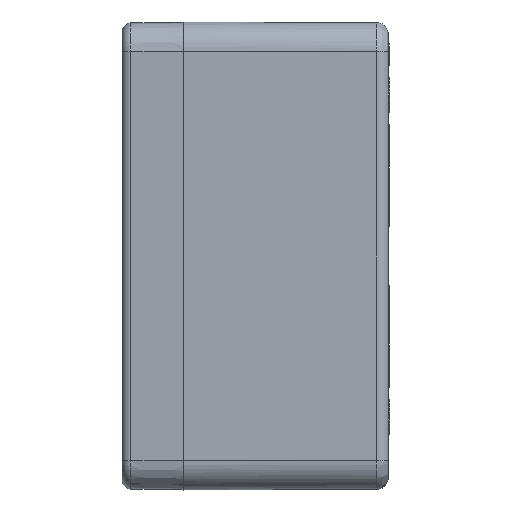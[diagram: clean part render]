
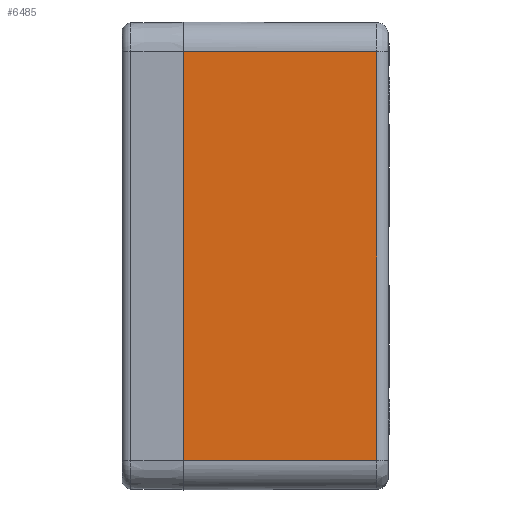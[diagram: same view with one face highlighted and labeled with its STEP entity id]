
A CAD part, left-side view. The second image highlights one B-rep face of the part: STEP entity #6485.
In plain terms, the highlighted planar face has unit normal (-1, -0.002, 0).
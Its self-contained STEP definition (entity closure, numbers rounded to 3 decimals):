
#527=CARTESIAN_POINT('',(-180.,0.,-70.));
#575=CARTESIAN_POINT('',(-180.,0.,70.));
#586=DIRECTION('',(0.,0.,-1.));
#587=VECTOR('',#586,140.);
#588=CARTESIAN_POINT('',(-180.,0.,70.));
#589=LINE('',#588,#587);
#2672=DIRECTION('',(0.,0.,1.));
#2673=VECTOR('',#2672,139.717);
#2674=CARTESIAN_POINT('',(-179.859,-66.009,
-69.859));
#2675=LINE('',#2674,#2673);
#2721=DIRECTION('',(-0.002,1.,-0.002));
#2722=VECTOR('',#2721,66.009);
#2723=CARTESIAN_POINT('',(-179.859,-66.009,
-69.859));
#2724=LINE('',#2723,#2722);
#2728=DIRECTION('',(-0.002,1.,0.002));
#2729=VECTOR('',#2728,66.009);
#2730=CARTESIAN_POINT('',(-179.859,-66.009,
69.859));
#2731=LINE('',#2730,#2729);
#2735=CARTESIAN_POINT('',(-179.859,-66.009,
-69.859));
#2842=CARTESIAN_POINT('',(-179.859,-66.009,
69.859));
#3569=VERTEX_POINT('',#527);
#3574=VERTEX_POINT('',#575);
#3578=VERTEX_POINT('',#2735);
#3595=VERTEX_POINT('',#2842);
#6472=CARTESIAN_POINT('',(-179.925,-35.,0.));
#6473=DIRECTION('',(1.,0.002,0.));
#6474=DIRECTION('',(-0.002,1.,0.));
#6475=AXIS2_PLACEMENT_3D('',#6472,#6473,#6474);
#6476=PLANE('',#6475);
#6477=ORIENTED_EDGE('',*,*,#6432,.F.);
#6479=ORIENTED_EDGE('',*,*,#6478,.T.);
#6480=ORIENTED_EDGE('',*,*,#4063,.F.);
#6482=ORIENTED_EDGE('',*,*,#6481,.F.);
#6483=EDGE_LOOP('',(#6477,#6479,#6480,#6482));
#6484=FACE_OUTER_BOUND('',#6483,.F.);
#4063=EDGE_CURVE('',#3574,#3569,#589,.T.);
#6432=EDGE_CURVE('',#3578,#3595,#2675,.T.);
#6478=EDGE_CURVE('',#3578,#3569,#2724,.T.);
#6481=EDGE_CURVE('',#3595,#3574,#2731,.T.);
#6485=ADVANCED_FACE('',(#6484),#6476,.F.);
